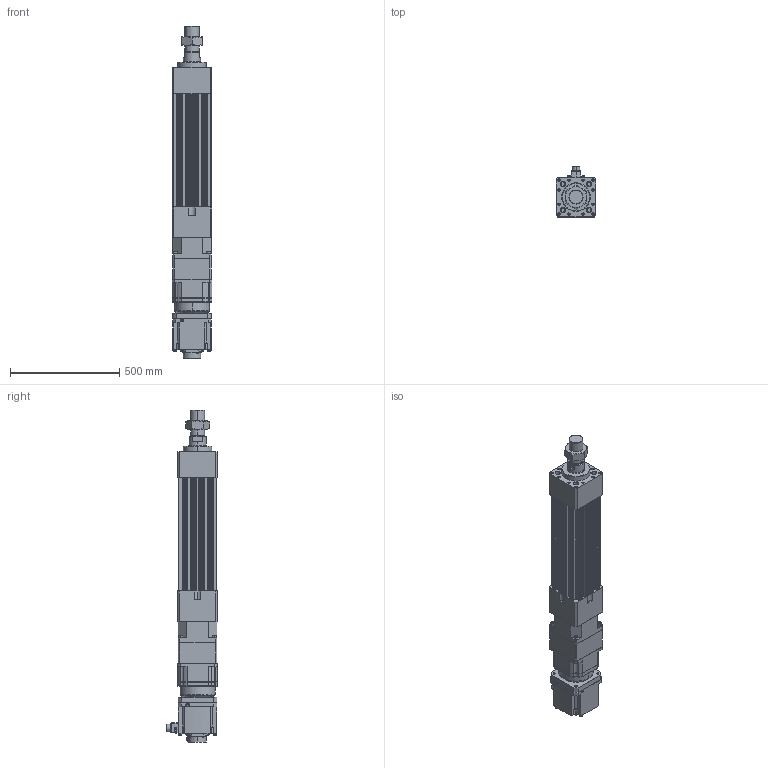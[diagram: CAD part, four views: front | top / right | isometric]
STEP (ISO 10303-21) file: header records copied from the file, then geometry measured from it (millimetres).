
FILE_DESCRIPTION (( 'STEP AP203' ), '1' );
FILE_NAME ('HES180HS-S200-W050G00-M.STEP', '2023-02-01T09:35:28', ( 'tms' ), ( '' ), 'SwSTEP 2.0', 'SolidWorks 2013', '' );
FILE_SCHEMA (( 'CONFIG_CONTROL_DESIGN' ));
Length unit declared in the file: millimetre
Products named in the file (9): HES180-S200-G180; HES180HS-S200-W050G00-M; P0403600401; HG-SR502; HES180 ROD M ST200; P1301600001; AB180-003[HG-SR702B]; M64X2.0P; AB1801
Assembly tree (8 placements, depth 3):
  HES180HS-S200-W050G00-M
    HES180-S200-G180
    HES180 ROD M ST200
    M64X2.0P
    AB180-003[HG-SR702B]
      AB1801
      P1301600001
      P0403600401
    HG-SR502
Bounding box: 180 x 230.85 x 1517 mm (x, y, z)
Volume: 22592338.9 mm3; surface area: 2053874.8 mm2
Topology: 4 solids, 23 shells, 1534 faces, 3945 edges, 2546 vertices
Faces by surface type: cylinder 693, plane 600, cone 174, bspline 63, torus 4
Entity records: 55246 total; most frequent: CARTESIAN_POINT 16431, DIRECTION 8177, ORIENTED_EDGE 7750, EDGE_CURVE 3899, AXIS2_PLACEMENT_3D 3072, VERTEX_POINT 2546, LINE 2033, VECTOR 2033
